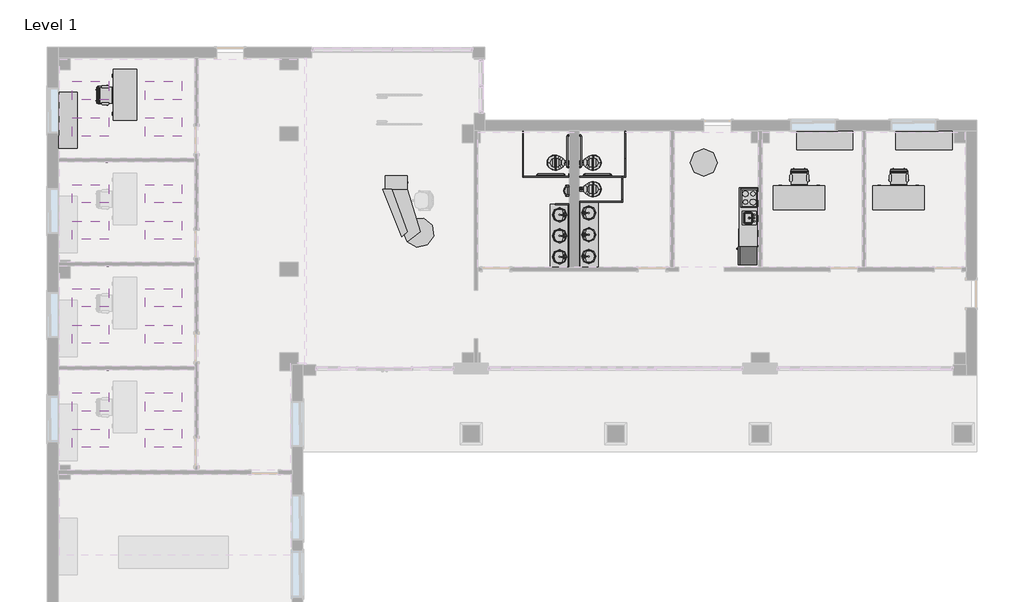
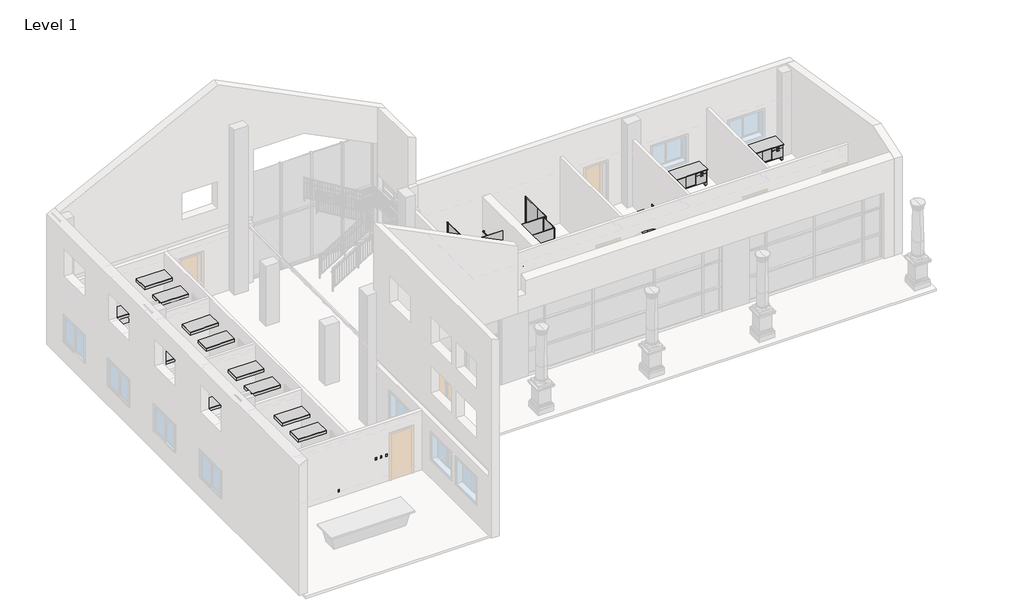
# One storey, part 8 of 8: 29 proxies, 16 light fixtures, 14 furniture elements, 11 flow terminals.
"""IFC4 building model written with IfcOpenShell, lengths in millimetres."""

from ifc_helpers import new_model, si_unit, origin, place, context, project, spatial, transform, mapped, element, save
from components import specialty_equipment_fe47f8b8, specialty_equipment_a66543ee, specialty_equipment_0732ba0f, proxy_75c98dfb, proxy_14d97774, proxy_deb97b80, proxy_a6faaae8, proxy_45b28599, grab_bar_3d_grab_bar_3d_00f4341b, grab_bar_3d_grab_bar_3d_a3ed3e83, kitchenette_medium_kitchenette_medium_844211aa, outlet_duplex_single_b6c2167a, proxy_c523a7b7, switch_single_single_f7a742c7, flow_terminal_871c2e40, flow_terminal_5184717d, flow_terminal_4f17df5f, flow_terminal_f7b7a87d, urinal_wall_3d_urinal_wall_3d_b67806af, chair_task_arms_chair_task_arms_3b363349, chair_task_arms_chair_task_arms_8395c10b, furniture_c6510c7c, furniture_b8c66f15, furniture_0f6f437d, furniture_7b927048, furniture_5a5a5c8e, desk_reception_desk_reception_8679d896, furniture_bcdaa455, furniture_9d33da18, furniture_905aceb5, troffer_light_2x4_parabolic_2_x4_2_lamp_120v_ca384779

model = new_model("IFC4")

# Units and contexts
model_context = context("Model", 3, world=origin())
ifc_project = project(units=[si_unit("LENGTHUNIT", "METRE", prefix="MILLI")], contexts=[model_context])

# Site, building, storey
site = spatial("IfcSite", under=ifc_project)
building = spatial("IfcBuilding", under=site)
storey = spatial("IfcBuildingStorey", under=building, Name="Level 1", Elevation=0.0)

# Proxies
placement = place(None, origin())
specialty_equipment_shape = specialty_equipment_fe47f8b8(model_context)
element("IfcBuildingElementProxy", 1, Name="Dispencer-Toilet Paper-2D : Dispencer-Toilet Paper-2D", ObjectType="Dispencer-Toilet Paper-2D : Dispencer-Toilet Paper-2D", at=placement, inside=storey, context=model_context, shape_type="MappedRepresentation", body=[
    mapped(specialty_equipment_shape, transform((3856.5733448, 6606.3605424, 0.0), x_axis=(0.0, -1.0, 0.0), y_axis=(1.0, 0.0, 0.0), z_axis=(0.0, 0.0, 1.0))),
])
specialty_equipment_2_shape = specialty_equipment_a66543ee(model_context)
element("IfcBuildingElementProxy", 2, Name="Dispencer-Toilet Paper-2D : Dispencer-Toilet Paper-2D", ObjectType="Dispencer-Toilet Paper-2D : Dispencer-Toilet Paper-2D", at=placement, inside=storey, context=model_context, shape_type="MappedRepresentation", body=[
    mapped(specialty_equipment_2_shape, transform((3513.6733448, 6606.3605424, 0.0), x_axis=(0.0, -1.0, 0.0), y_axis=(1.0, 0.0, 0.0), z_axis=(0.0, 0.0, 1.0))),
])
element("IfcBuildingElementProxy", 3, Name="Dispencer-Toilet Paper-2D : Dispencer-Toilet Paper-2D", ObjectType="Dispencer-Toilet Paper-2D : Dispencer-Toilet Paper-2D", at=placement, inside=storey, context=model_context, shape_type="MappedRepresentation", body=[
    mapped(specialty_equipment_2_shape, transform((3856.5733448, 6580.9605424, 0.0), x_axis=(0.0, 1.0, 0.0), y_axis=(-1.0, 0.0, 0.0), z_axis=(0.0, 0.0, 1.0))),
])
specialty_equipment_3_shape = specialty_equipment_0732ba0f(model_context)
element("IfcBuildingElementProxy", 4, Name="Urinal Screen-3D w Urinal : 36\" O.C.", ObjectType="Urinal Screen-3D w Urinal : 36\" O.C.", at=placement, inside=storey, context=model_context, shape_type="MappedRepresentation", body=[
    mapped(specialty_equipment_3_shape, transform((3685.1233448, 5666.5605424, 0.0), x_axis=(0.0, 1.0, 0.0), y_axis=(-1.0, 0.0, 0.0), z_axis=(0.0, 0.0, 1.0))),
])
proxy_shape = proxy_75c98dfb(model_context)
element("IfcBuildingElementProxy", 5, Name="Toilet Stall-3D w Toilet : 32\" x 56\" Clear", ObjectType="Toilet Stall-3D w Toilet : 32\" x 56\" Clear", at=placement, inside=storey, context=model_context, shape_type="MappedRepresentation", body=[
    mapped(proxy_shape, transform((3685.1233448, 5769.6573886, 0.0), x_axis=(0.0, 1.0, 0.0), y_axis=(-1.0, 0.0, 0.0), z_axis=(0.0, 0.0, 1.0))),
])
proxy_2_shape = proxy_14d97774(model_context)
element("IfcBuildingElementProxy", 6, Name="Toilet Stall-Accessible-Front-3D w Toilet : 60\" x 60\" Clear", ObjectType="Toilet Stall-Accessible-Front-3D w Toilet : 60\" x 60\" Clear", at=placement, inside=storey, context=model_context, shape_type="MappedRepresentation", body=[
    mapped(proxy_2_shape, transform((3685.1233448, 6658.6573886, 0.0), x_axis=(0.0, 1.0, 0.0), y_axis=(-1.0, 0.0, 0.0), z_axis=(0.0, 0.0, 1.0))),
])
proxy_3_shape = proxy_deb97b80(model_context)
element("IfcBuildingElementProxy", 7, Name="Toilet Stall-Accessible-Front-3D w Toilet : 60\" x 60\" Clear", ObjectType="Toilet Stall-Accessible-Front-3D w Toilet : 60\" x 60\" Clear", at=placement, inside=storey, context=model_context, shape_type="MappedRepresentation", body=[
    mapped(proxy_3_shape, transform((3685.1233448, 6658.6573886, 0.0), x_axis=(0.0, 1.0, 0.0), y_axis=(-1.0, 0.0, 0.0), z_axis=(0.0, 0.0, 1.0))),
])
proxy_4_shape = proxy_a6faaae8(model_context)
element("IfcBuildingElementProxy", 8, Name="Cook Top-4 Unit2 : 22\" x 20\"", ObjectType="Cook Top-4 Unit2 : 22\" x 20\"", at=placement, inside=storey, context=model_context, shape_type="MappedRepresentation", body=[
    mapped(proxy_4_shape, transform((9542.9983448, 5882.4605424, 0.0), x_axis=(0.0, -1.0, 0.0), y_axis=(1.0, 0.0, 0.0), z_axis=(0.0, 0.0, 1.0))),
])
proxy_5_shape = proxy_45b28599(model_context)
element("IfcBuildingElementProxy", 9, Name="Dishwasher : 24\" x 24\" x 34\"", ObjectType="Dishwasher : 24\" x 24\" x 34\"", at=placement, inside=storey, context=model_context, shape_type="MappedRepresentation", body=[
    mapped(proxy_5_shape, transform((9251.14878, 4931.2780109, 0.0), x_axis=(0.0, -1.0, 0.0), y_axis=(1.0, 0.0, 0.0), z_axis=(0.0, 0.0, 1.0))),
])
grab_bar_3d_grab_bar_3d_shape = grab_bar_3d_grab_bar_3d_00f4341b(model_context)
element("IfcBuildingElementProxy", 10, Name="Grab Bar-3D : Grab Bar-3D", ObjectType="Grab Bar-3D : Grab Bar-3D", at=placement, inside=storey, context=model_context, shape_type="MappedRepresentation", body=[
    mapped(grab_bar_3d_grab_bar_3d_shape, transform((3513.6733448, 6606.3605424, 0.0), x_axis=(1.0, 0.0, 0.0), y_axis=(0.0, 1.0, 0.0), z_axis=(0.0, 0.0, 1.0))),
])
grab_bar_3d_grab_bar_3d_2_shape = grab_bar_3d_grab_bar_3d_a3ed3e83(model_context)
element("IfcBuildingElementProxy", 11, Name="Grab Bar-3D : Grab Bar-3D", ObjectType="Grab Bar-3D : Grab Bar-3D", at=placement, inside=storey, context=model_context, shape_type="MappedRepresentation", body=[
    mapped(grab_bar_3d_grab_bar_3d_2_shape, transform((3856.5733448, 6606.3605424, 0.0), x_axis=(-1.0, 0.0, 0.0), y_axis=(0.0, -1.0, 0.0), z_axis=(0.0, 0.0, 1.0))),
])
kitchenette_medium_kitchenette_medium_shape = kitchenette_medium_kitchenette_medium_844211aa(model_context)
element("IfcBuildingElementProxy", 12, Name="Kitchenette - Medium : Kitchenette - Medium", ObjectType="Kitchenette - Medium : Kitchenette - Medium", at=placement, inside=storey, context=model_context, shape_type="MappedRepresentation", body=[
    mapped(kitchenette_medium_kitchenette_medium_shape, transform((9847.7983448, 5558.2982474, 0.0), x_axis=(0.0, -1.0, 0.0), y_axis=(1.0, 0.0, 0.0), z_axis=(0.0, 0.0, 1.0))),
])
outlet_duplex_single_shape = outlet_duplex_single_b6c2167a(model_context)
element("IfcBuildingElementProxy", 13, Name="Outlet-Duplex : Single", ObjectType="Outlet-Duplex : Single", at=placement, inside=storey, context=model_context, shape_type="MappedRepresentation", body=[
    mapped(outlet_duplex_single_shape, transform((-11923.1766552, 186.5105424, 0.0), x_axis=(-1.0, 0.0, 0.0), y_axis=(0.0, -1.0, 0.0), z_axis=(0.0, 0.0, 1.0))),
])
element("IfcBuildingElementProxy", 14, Name="Outlet-Duplex : Single", ObjectType="Outlet-Duplex : Single", at=placement, inside=storey, context=model_context, shape_type="MappedRepresentation", body=[
    mapped(outlet_duplex_single_shape, transform((-11923.1766552, 3667.8980424, 0.0), x_axis=(-1.0, 0.0, 0.0), y_axis=(0.0, -1.0, 0.0), z_axis=(0.0, 0.0, 1.0))),
])
element("IfcBuildingElementProxy", 15, Name="Outlet-Duplex : Single", ObjectType="Outlet-Duplex : Single", at=placement, inside=storey, context=model_context, shape_type="MappedRepresentation", body=[
    mapped(outlet_duplex_single_shape, transform((-11948.5766552, 7149.2855424, 0.0), x_axis=(-1.0, 0.0, 0.0), y_axis=(0.0, -1.0, 0.0), z_axis=(0.0, 0.0, 1.0))),
])
element("IfcBuildingElementProxy", 16, Name="Outlet-Duplex : Single", ObjectType="Outlet-Duplex : Single", at=placement, inside=storey, context=model_context, shape_type="MappedRepresentation", body=[
    mapped(outlet_duplex_single_shape, transform((-8949.7891552, 9397.9792924, 0.0), x_axis=(0.0, 1.0, 0.0), y_axis=(-1.0, 0.0, 0.0), z_axis=(0.0, 0.0, 1.0))),
])
element("IfcBuildingElementProxy", 17, Name="Outlet-Duplex : Single", ObjectType="Outlet-Duplex : Single", at=placement, inside=storey, context=model_context, shape_type="MappedRepresentation", body=[
    mapped(outlet_duplex_single_shape, transform((-8949.7891552, 5941.9917924, 0.0), x_axis=(0.0, 1.0, 0.0), y_axis=(-1.0, 0.0, 0.0), z_axis=(0.0, 0.0, 1.0))),
])
element("IfcBuildingElementProxy", 18, Name="Outlet-Duplex : Single", ObjectType="Outlet-Duplex : Single", at=placement, inside=storey, context=model_context, shape_type="MappedRepresentation", body=[
    mapped(outlet_duplex_single_shape, transform((-8949.7891552, 2462.9855424, 0.0), x_axis=(0.0, 1.0, 0.0), y_axis=(-1.0, 0.0, 0.0), z_axis=(0.0, 0.0, 1.0))),
])
element("IfcBuildingElementProxy", 19, Name="Outlet-Duplex : Single", ObjectType="Outlet-Duplex : Single", at=placement, inside=storey, context=model_context, shape_type="MappedRepresentation", body=[
    mapped(outlet_duplex_single_shape, transform((-8949.7891552, -1020.7832076, 0.0), x_axis=(0.0, 1.0, 0.0), y_axis=(-1.0, 0.0, 0.0), z_axis=(0.0, 0.0, 1.0))),
])
element("IfcBuildingElementProxy", 20, Name="Outlet-Duplex : Single", ObjectType="Outlet-Duplex : Single", at=placement, inside=storey, context=model_context, shape_type="MappedRepresentation", body=[
    mapped(outlet_duplex_single_shape, transform((-11973.9766552, -3294.8769576, 0.0), x_axis=(-1.0, 0.0, 0.0), y_axis=(0.0, -1.0, 0.0), z_axis=(0.0, 0.0, 1.0))),
])
element("IfcBuildingElementProxy", 21, Name="Outlet-Duplex : Single", ObjectType="Outlet-Duplex : Single", at=placement, inside=storey, context=model_context, shape_type="MappedRepresentation", body=[
    mapped(outlet_duplex_single_shape, transform((-9402.2266552, -3294.8769576, 0.0), x_axis=(-1.0, 0.0, 0.0), y_axis=(0.0, -1.0, 0.0), z_axis=(0.0, 0.0, 1.0))),
])
proxy_6_shape = proxy_c523a7b7(model_context)
element("IfcBuildingElementProxy", 22, Name="Refrigerator : 24\" x 25\" LH", ObjectType="Refrigerator : 24\" x 25\" LH", at=placement, inside=storey, context=model_context, shape_type="MappedRepresentation", body=[
    mapped(proxy_6_shape, transform((9497.3493733, 3945.7105424, 0.0), x_axis=(0.0, -1.0, 0.0), y_axis=(1.0, 0.0, 0.0), z_axis=(0.0, 0.0, 1.0))),
])
switch_single_single_shape = switch_single_single_f7a742c7(model_context)
element("IfcBuildingElementProxy", 23, Name="Switch-Single : Single", ObjectType="Switch-Single : Single", at=placement, inside=storey, context=model_context, shape_type="MappedRepresentation", body=[
    mapped(switch_single_single_shape, transform((-8949.7891552, 1507.3105424, 0.0), x_axis=(0.0, 1.0, 0.0), y_axis=(-1.0, 0.0, 0.0), z_axis=(0.0, 0.0, 1.0))),
])
element("IfcBuildingElementProxy", 24, Name="Switch-Single : Single", ObjectType="Switch-Single : Single", at=placement, inside=storey, context=model_context, shape_type="MappedRepresentation", body=[
    mapped(switch_single_single_shape, transform((-8949.7891552, -1978.8394576, 0.0), x_axis=(0.0, 1.0, 0.0), y_axis=(-1.0, 0.0, 0.0), z_axis=(0.0, 0.0, 1.0))),
])
element("IfcBuildingElementProxy", 25, Name="Switch-Single : Single", ObjectType="Switch-Single : Single", at=placement, inside=storey, context=model_context, shape_type="MappedRepresentation", body=[
    mapped(switch_single_single_shape, transform((-8949.7891552, 4983.9355424, 0.0), x_axis=(0.0, 1.0, 0.0), y_axis=(-1.0, 0.0, 0.0), z_axis=(0.0, 0.0, 1.0))),
])
element("IfcBuildingElementProxy", 26, Name="Switch-Single : Single", ObjectType="Switch-Single : Single", at=placement, inside=storey, context=model_context, shape_type="MappedRepresentation", body=[
    mapped(switch_single_single_shape, transform((-8949.7891552, 8465.3230424, 0.0), x_axis=(0.0, 1.0, 0.0), y_axis=(-1.0, 0.0, 0.0), z_axis=(0.0, 0.0, 1.0))),
])
element("IfcBuildingElementProxy", 27, Name="Switch-Single : Single", ObjectType="Switch-Single : Single", at=placement, inside=storey, context=model_context, shape_type="MappedRepresentation", body=[
    mapped(switch_single_single_shape, transform((-7313.0766552, -3294.8769576, 0.0), x_axis=(-1.0, 0.0, 0.0), y_axis=(0.0, -1.0, 0.0), z_axis=(0.0, 0.0, 1.0))),
])
element("IfcBuildingElementProxy", 28, Name="Switch-Single : Single", ObjectType="Switch-Single : Single", at=placement, inside=storey, context=model_context, shape_type="MappedRepresentation", body=[
    mapped(switch_single_single_shape, transform((-7541.6766552, -3294.8769576, 0.0), x_axis=(-1.0, 0.0, 0.0), y_axis=(0.0, -1.0, 0.0), z_axis=(0.0, 0.0, 1.0))),
])
element("IfcBuildingElementProxy", 29, Name="Switch-Single : Single", ObjectType="Switch-Single : Single", at=placement, inside=storey, context=model_context, shape_type="MappedRepresentation", body=[
    mapped(switch_single_single_shape, transform((-7770.2766552, -3294.8769576, 0.0), x_axis=(-1.0, 0.0, 0.0), y_axis=(0.0, -1.0, 0.0), z_axis=(0.0, 0.0, 1.0))),
])

# Flow terminals
flow_terminal_shape = flow_terminal_871c2e40(model_context)
element("IfcFlowTerminal", 30, ObjectType="Sink Kitchen-Island : 18\" x 18\"", at=placement, inside=storey, context=model_context, shape_type="MappedRepresentation", body=[
    mapped(flow_terminal_shape, transform((9540.6529437, 5225.049783, -14.4), x_axis=(0.0, -1.0, 0.0), y_axis=(1.0, 0.0, 0.0), z_axis=(0.0, 0.0, 1.0))),
])
flow_terminal_2_shape = flow_terminal_5184717d(model_context)
element("IfcFlowTerminal", 31, ObjectType="Sink Vanity-Round : 19\" x 19\"", at=placement, inside=storey, context=model_context, shape_type="MappedRepresentation", body=[
    mapped(flow_terminal_2_shape, transform((4259.2410633, 5282.0421352, 76.2), x_axis=(0.0, 1.0, 0.0), y_axis=(-1.0, 0.0, 0.0), z_axis=(0.0, 0.0, 1.0))),
])
element("IfcFlowTerminal", 32, ObjectType="Sink Vanity-Round : 19\" x 19\"", at=placement, inside=storey, context=model_context, shape_type="MappedRepresentation", body=[
    mapped(flow_terminal_2_shape, transform((4259.2410633, 3825.7754686, 76.2), x_axis=(0.0, 1.0, 0.0), y_axis=(-1.0, 0.0, 0.0), z_axis=(0.0, 0.0, 1.0))),
])
element("IfcFlowTerminal", 33, ObjectType="Sink Vanity-Round : 19\" x 19\"", at=placement, inside=storey, context=model_context, shape_type="MappedRepresentation", body=[
    mapped(flow_terminal_2_shape, transform((4259.2410633, 4553.9088019, 76.2), x_axis=(0.0, 1.0, 0.0), y_axis=(-1.0, 0.0, 0.0), z_axis=(0.0, 0.0, 1.0))),
])
element("IfcFlowTerminal", 34, ObjectType="Sink Vanity-Round : 19\" x 19\"", at=placement, inside=storey, context=model_context, shape_type="MappedRepresentation", body=[
    mapped(flow_terminal_2_shape, transform((3111.0056263, 4006.3789497, 76.2), x_axis=(0.0, -1.0, 0.0), y_axis=(1.0, 0.0, 0.0), z_axis=(0.0, 0.0, 1.0))),
])
element("IfcFlowTerminal", 35, ObjectType="Sink Vanity-Round : 19\" x 19\"", at=placement, inside=storey, context=model_context, shape_type="MappedRepresentation", body=[
    mapped(flow_terminal_2_shape, transform((3111.0056263, 5411.8456163, 76.2), x_axis=(0.0, -1.0, 0.0), y_axis=(1.0, 0.0, 0.0), z_axis=(0.0, 0.0, 1.0))),
])
element("IfcFlowTerminal", 36, ObjectType="Sink Vanity-Round : 19\" x 19\"", at=placement, inside=storey, context=model_context, shape_type="MappedRepresentation", body=[
    mapped(flow_terminal_2_shape, transform((3111.0056263, 4709.112283, 76.2), x_axis=(0.0, -1.0, 0.0), y_axis=(1.0, 0.0, 0.0), z_axis=(0.0, 0.0, 1.0))),
])
flow_terminal_3_shape = flow_terminal_4f17df5f(model_context)
element("IfcFlowTerminal", 37, ObjectType="Toilet-Commercial-Wall-3D1 : 15\" Seat Height 2", at=placement, inside=storey, context=model_context, shape_type="MappedRepresentation", body=[
    mapped(flow_terminal_3_shape, transform((3685.1233448, 6658.6573886, 0.0), x_axis=(0.0, 1.0, 0.0), y_axis=(-1.0, 0.0, 0.0), z_axis=(0.0, 0.0, 1.0))),
])
flow_terminal_4_shape = flow_terminal_f7b7a87d(model_context)
element("IfcFlowTerminal", 38, ObjectType="Toilet-Commercial-Wall-3D1 : 15\" Seat Height 2", at=placement, inside=storey, context=model_context, shape_type="MappedRepresentation", body=[
    mapped(flow_terminal_4_shape, transform((3685.1233448, 6658.6573886, 0.0), x_axis=(0.0, 1.0, 0.0), y_axis=(-1.0, 0.0, 0.0), z_axis=(0.0, 0.0, 1.0))),
])
element("IfcFlowTerminal", 39, ObjectType="Toilet-Commercial-Wall-3D1 : 15\" Seat Height 2", at=placement, inside=storey, context=model_context, shape_type="MappedRepresentation", body=[
    mapped(flow_terminal_4_shape, transform((3685.1233448, 5769.6573886, 0.0), x_axis=(0.0, 1.0, 0.0), y_axis=(-1.0, 0.0, 0.0), z_axis=(0.0, 0.0, 1.0))),
])
urinal_wall_3d_urinal_wall_3d_shape = urinal_wall_3d_urinal_wall_3d_b67806af(model_context)
element("IfcFlowTerminal", 40, ObjectType="Urinal-Wall-3D : Urinal-Wall-3D", at=placement, inside=storey, context=model_context, shape_type="MappedRepresentation", body=[
    mapped(urinal_wall_3d_urinal_wall_3d_shape, transform((3685.1233448, 6232.8351423, 0.0), x_axis=(0.0, 1.0, 0.0), y_axis=(-1.0, 0.0, 0.0), z_axis=(0.0, 0.0, 1.0))),
])

# Furniture
chair_task_arms_chair_task_arms_shape = chair_task_arms_chair_task_arms_3b363349(model_context)
element("IfcFurniture", 41, ObjectType="Chair-Task Arms : Chair-Task Arms", at=placement, inside=storey, context=model_context, shape_type="MappedRepresentation", body=[
    mapped(chair_task_arms_chair_task_arms_shape, transform((11363.5641645, 6594.7945159, 0.0), x_axis=(-1.0, 0.0, 0.0), y_axis=(0.0, -1.0, 0.0), z_axis=(0.0, 0.0, 1.0))),
])
element("IfcFurniture", 42, ObjectType="Chair-Task Arms : Chair-Task Arms", at=placement, inside=storey, context=model_context, shape_type="MappedRepresentation", body=[
    mapped(chair_task_arms_chair_task_arms_shape, transform((14687.7891645, 6594.7945159, 0.0), x_axis=(-1.0, 0.0, 0.0), y_axis=(0.0, -1.0, 0.0), z_axis=(0.0, 0.0, 1.0))),
])
chair_task_arms_chair_task_arms_2_shape = chair_task_arms_chair_task_arms_8395c10b(model_context)
element("IfcFurniture", 43, ObjectType="Chair-Task Arms : Chair-Task Arms", at=placement, inside=storey, context=model_context, shape_type="MappedRepresentation", body=[
    mapped(chair_task_arms_chair_task_arms_2_shape, transform((-12048.1356286, 9176.8197228, 0.0), x_axis=(0.0, 1.0, 0.0), y_axis=(-1.0, 0.0, 0.0), z_axis=(0.0, 0.0, 1.0))),
])
furniture_shape = furniture_c6510c7c(model_context)
element("IfcFurniture", 44, ObjectType="Counter Top w Sink Hole : 24\" Depth", at=placement, inside=storey, context=model_context, shape_type="MappedRepresentation", body=[
    mapped(furniture_shape, transform((9847.7983448, 5024.8982474, -14.4), x_axis=(0.0, -1.0, 0.0), y_axis=(1.0, 0.0, 0.0), z_axis=(0.0, 0.0, 1.0))),
])
furniture_2_shape = furniture_b8c66f15(model_context)
element("IfcFurniture", 45, ObjectType="Counter Top w Sinks-3D : 96\"", at=placement, inside=storey, context=model_context, shape_type="MappedRepresentation", body=[
    mapped(furniture_2_shape, transform((3685.1233448, 4626.6502386, 0.0), x_axis=(0.0, -1.0, 0.0), y_axis=(1.0, 0.0, 0.0), z_axis=(0.0, 0.0, 1.0))),
])
furniture_3_shape = furniture_0f6f437d(model_context)
element("IfcFurniture", 46, ObjectType="Counter Top w Sinks-3D : 96\"", at=placement, inside=storey, context=model_context, shape_type="MappedRepresentation", body=[
    mapped(furniture_3_shape, transform((3685.1233448, 4674.4708462, 0.0), x_axis=(0.0, 1.0, 0.0), y_axis=(-1.0, 0.0, 0.0), z_axis=(0.0, 0.0, 1.0))),
])
furniture_4_shape = furniture_7b927048(model_context)
element("IfcFurniture", 47, ObjectType="Credenza : 72\" x 24\"", at=placement, inside=storey, context=model_context, shape_type="MappedRepresentation", body=[
    mapped(furniture_4_shape, transform((12004.8699199, 7820.9802146, 0.0), x_axis=(1.0, 0.0, 0.0), y_axis=(0.0, 1.0, 0.0), z_axis=(0.0, 0.0, 1.0))),
])
element("IfcFurniture", 48, ObjectType="Credenza : 72\" x 24\"", at=placement, inside=storey, context=model_context, shape_type="MappedRepresentation", body=[
    mapped(furniture_4_shape, transform((15329.0949199, 7820.9802146, 0.0), x_axis=(1.0, 0.0, 0.0), y_axis=(0.0, 1.0, 0.0), z_axis=(0.0, 0.0, 1.0))),
])
furniture_5_shape = furniture_5a5a5c8e(model_context)
element("IfcFurniture", 49, ObjectType="Credenza : 72\" x 24\"", at=placement, inside=storey, context=model_context, shape_type="MappedRepresentation", body=[
    mapped(furniture_5_shape, transform((-13274.3213273, 8535.5139674, 0.0), x_axis=(0.0, -1.0, 0.0), y_axis=(1.0, 0.0, 0.0), z_axis=(0.0, 0.0, 1.0))),
])
desk_reception_desk_reception_shape = desk_reception_desk_reception_8679d896(model_context)
element("IfcFurniture", 50, ObjectType="Desk-Reception : Desk-Reception", at=placement, inside=storey, context=model_context, shape_type="MappedRepresentation", body=[
    mapped(desk_reception_desk_reception_shape, transform((-1896.5266552, 6172.9730424, 0.0), x_axis=(0.0, 1.0000000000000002, 0.0), y_axis=(-1.0000000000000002, 0.0, 0.0), z_axis=(0.0, 0.0, 1.0))),
])
furniture_6_shape = furniture_bcdaa455(model_context)
element("IfcFurniture", 51, ObjectType="Desk1 : 66\" x 30\"", at=placement, inside=storey, context=model_context, shape_type="MappedRepresentation", body=[
    mapped(furniture_6_shape, transform((10371.6733448, 5509.0486143, 0.0), x_axis=(1.0, 0.0, 0.0), y_axis=(0.0, 1.0, 0.0), z_axis=(0.0, 0.0, 1.0))),
])
element("IfcFurniture", 52, ObjectType="Desk1 : 66\" x 30\"", at=placement, inside=storey, context=model_context, shape_type="MappedRepresentation", body=[
    mapped(furniture_6_shape, transform((13695.8983448, 5509.0486143, 0.0), x_axis=(1.0, 0.0, 0.0), y_axis=(0.0, 1.0, 0.0), z_axis=(0.0, 0.0, 1.0))),
])
furniture_7_shape = furniture_9d33da18(model_context)
element("IfcFurniture", 53, ObjectType="Desk1 : 66\" x 30\"", at=placement, inside=storey, context=model_context, shape_type="MappedRepresentation", body=[
    mapped(furniture_7_shape, transform((-10962.389727, 10168.7105424, 0.0), x_axis=(0.0, -1.0, 0.0), y_axis=(1.0, 0.0, 0.0), z_axis=(0.0, 0.0, 1.0))),
])
furniture_8_shape = furniture_905aceb5(model_context)
element("IfcFurniture", 54, ObjectType="Table-Dining Round w Chairs : 36\" Diameter", at=placement, inside=storey, context=model_context, shape_type="MappedRepresentation", body=[
    mapped(furniture_8_shape, transform((7814.9551484, 7120.9752947, 0.0), x_axis=(0.7071067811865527, 0.7071067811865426, 0.0), y_axis=(-0.7071067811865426, 0.7071067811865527, 0.0), z_axis=(0.0, 0.0, 1.0))),
])

# Light fixtures
troffer_light_2x4_parabolic_2_x4_2_lamp_120v_shape = troffer_light_2x4_parabolic_2_x4_2_lamp_120v_ca384779(model_context)
element("IfcLightFixture", 55, ObjectType="Troffer Light - 2x4 Parabolic : 2'x4'(2 Lamp) - 120V", at=placement, inside=storey, context=model_context, shape_type="MappedRepresentation", body=[
    mapped(troffer_light_2x4_parabolic_2_x4_2_lamp_120v_shape, transform((-12472.7981536, 9533.6452245, 0.0), x_axis=(1.0, 0.0, 0.0), y_axis=(0.0, 1.0, 0.0), z_axis=(0.0, 0.0, 1.0))),
])
element("IfcLightFixture", 56, ObjectType="Troffer Light - 2x4 Parabolic : 2'x4'(2 Lamp) - 120V", at=placement, inside=storey, context=model_context, shape_type="MappedRepresentation", body=[
    mapped(troffer_light_2x4_parabolic_2_x4_2_lamp_120v_shape, transform((-10034.3981536, 9533.6452245, 0.0), x_axis=(1.0, 0.0, 0.0), y_axis=(0.0, 1.0, 0.0), z_axis=(0.0, 0.0, 1.0))),
])
element("IfcLightFixture", 57, ObjectType="Troffer Light - 2x4 Parabolic : 2'x4'(2 Lamp) - 120V", at=placement, inside=storey, context=model_context, shape_type="MappedRepresentation", body=[
    mapped(troffer_light_2x4_parabolic_2_x4_2_lamp_120v_shape, transform((-10034.3981536, 8314.4452245, 0.0), x_axis=(1.0, 0.0, 0.0), y_axis=(0.0, 1.0, 0.0), z_axis=(0.0, 0.0, 1.0))),
])
element("IfcLightFixture", 58, ObjectType="Troffer Light - 2x4 Parabolic : 2'x4'(2 Lamp) - 120V", at=placement, inside=storey, context=model_context, shape_type="MappedRepresentation", body=[
    mapped(troffer_light_2x4_parabolic_2_x4_2_lamp_120v_shape, transform((-12472.7981536, 8314.4452245, 0.0), x_axis=(1.0, 0.0, 0.0), y_axis=(0.0, 1.0, 0.0), z_axis=(0.0, 0.0, 1.0))),
])
element("IfcLightFixture", 59, ObjectType="Troffer Light - 2x4 Parabolic : 2'x4'(2 Lamp) - 120V", at=placement, inside=storey, context=model_context, shape_type="MappedRepresentation", body=[
    mapped(troffer_light_2x4_parabolic_2_x4_2_lamp_120v_shape, transform((-12472.7981536, 6077.6577245, 0.0), x_axis=(1.0, 0.0, 0.0), y_axis=(0.0, 1.0, 0.0), z_axis=(0.0, 0.0, 1.0))),
])
element("IfcLightFixture", 60, ObjectType="Troffer Light - 2x4 Parabolic : 2'x4'(2 Lamp) - 120V", at=placement, inside=storey, context=model_context, shape_type="MappedRepresentation", body=[
    mapped(troffer_light_2x4_parabolic_2_x4_2_lamp_120v_shape, transform((-10034.3981536, 6077.6577245, 0.0), x_axis=(1.0, 0.0, 0.0), y_axis=(0.0, 1.0, 0.0), z_axis=(0.0, 0.0, 1.0))),
])
element("IfcLightFixture", 61, ObjectType="Troffer Light - 2x4 Parabolic : 2'x4'(2 Lamp) - 120V", at=placement, inside=storey, context=model_context, shape_type="MappedRepresentation", body=[
    mapped(troffer_light_2x4_parabolic_2_x4_2_lamp_120v_shape, transform((-10034.3981536, 4858.4577245, 0.0), x_axis=(1.0, 0.0, 0.0), y_axis=(0.0, 1.0, 0.0), z_axis=(0.0, 0.0, 1.0))),
])
element("IfcLightFixture", 62, ObjectType="Troffer Light - 2x4 Parabolic : 2'x4'(2 Lamp) - 120V", at=placement, inside=storey, context=model_context, shape_type="MappedRepresentation", body=[
    mapped(troffer_light_2x4_parabolic_2_x4_2_lamp_120v_shape, transform((-12472.7981536, 4858.4577245, 0.0), x_axis=(1.0, 0.0, 0.0), y_axis=(0.0, 1.0, 0.0), z_axis=(0.0, 0.0, 1.0))),
])
element("IfcLightFixture", 63, ObjectType="Troffer Light - 2x4 Parabolic : 2'x4'(2 Lamp) - 120V", at=placement, inside=storey, context=model_context, shape_type="MappedRepresentation", body=[
    mapped(troffer_light_2x4_parabolic_2_x4_2_lamp_120v_shape, transform((-12472.7981536, 2596.2702245, 0.0), x_axis=(1.0, 0.0, 0.0), y_axis=(0.0, 1.0, 0.0), z_axis=(0.0, 0.0, 1.0))),
])
element("IfcLightFixture", 64, ObjectType="Troffer Light - 2x4 Parabolic : 2'x4'(2 Lamp) - 120V", at=placement, inside=storey, context=model_context, shape_type="MappedRepresentation", body=[
    mapped(troffer_light_2x4_parabolic_2_x4_2_lamp_120v_shape, transform((-10034.3981536, 2596.2702245, 0.0), x_axis=(1.0, 0.0, 0.0), y_axis=(0.0, 1.0, 0.0), z_axis=(0.0, 0.0, 1.0))),
])
element("IfcLightFixture", 65, ObjectType="Troffer Light - 2x4 Parabolic : 2'x4'(2 Lamp) - 120V", at=placement, inside=storey, context=model_context, shape_type="MappedRepresentation", body=[
    mapped(troffer_light_2x4_parabolic_2_x4_2_lamp_120v_shape, transform((-10034.3981536, 1377.0702245, 0.0), x_axis=(1.0, 0.0, 0.0), y_axis=(0.0, 1.0, 0.0), z_axis=(0.0, 0.0, 1.0))),
])
element("IfcLightFixture", 66, ObjectType="Troffer Light - 2x4 Parabolic : 2'x4'(2 Lamp) - 120V", at=placement, inside=storey, context=model_context, shape_type="MappedRepresentation", body=[
    mapped(troffer_light_2x4_parabolic_2_x4_2_lamp_120v_shape, transform((-12472.7981536, 1377.0702245, 0.0), x_axis=(1.0, 0.0, 0.0), y_axis=(0.0, 1.0, 0.0), z_axis=(0.0, 0.0, 1.0))),
])
element("IfcLightFixture", 67, ObjectType="Troffer Light - 2x4 Parabolic : 2'x4'(2 Lamp) - 120V", at=placement, inside=storey, context=model_context, shape_type="MappedRepresentation", body=[
    mapped(troffer_light_2x4_parabolic_2_x4_2_lamp_120v_shape, transform((-12472.7981536, -885.1172755, 0.0), x_axis=(1.0, 0.0, 0.0), y_axis=(0.0, 1.0, 0.0), z_axis=(0.0, 0.0, 1.0))),
])
element("IfcLightFixture", 68, ObjectType="Troffer Light - 2x4 Parabolic : 2'x4'(2 Lamp) - 120V", at=placement, inside=storey, context=model_context, shape_type="MappedRepresentation", body=[
    mapped(troffer_light_2x4_parabolic_2_x4_2_lamp_120v_shape, transform((-10034.3981536, -885.1172755, 0.0), x_axis=(1.0, 0.0, 0.0), y_axis=(0.0, 1.0, 0.0), z_axis=(0.0, 0.0, 1.0))),
])
element("IfcLightFixture", 69, ObjectType="Troffer Light - 2x4 Parabolic : 2'x4'(2 Lamp) - 120V", at=placement, inside=storey, context=model_context, shape_type="MappedRepresentation", body=[
    mapped(troffer_light_2x4_parabolic_2_x4_2_lamp_120v_shape, transform((-10034.3981536, -2104.3172755, 0.0), x_axis=(1.0, 0.0, 0.0), y_axis=(0.0, 1.0, 0.0), z_axis=(0.0, 0.0, 1.0))),
])
element("IfcLightFixture", 70, ObjectType="Troffer Light - 2x4 Parabolic : 2'x4'(2 Lamp) - 120V", at=placement, inside=storey, context=model_context, shape_type="MappedRepresentation", body=[
    mapped(troffer_light_2x4_parabolic_2_x4_2_lamp_120v_shape, transform((-12472.7981536, -2104.3172755, 0.0), x_axis=(1.0, 0.0, 0.0), y_axis=(0.0, 1.0, 0.0), z_axis=(0.0, 0.0, 1.0))),
])

save(model, "model.ifc")
